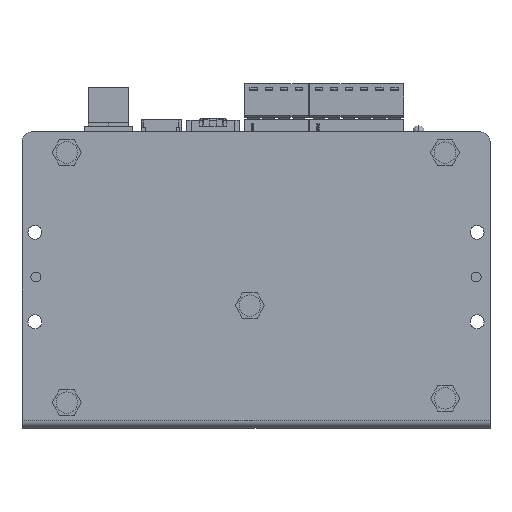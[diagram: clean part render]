
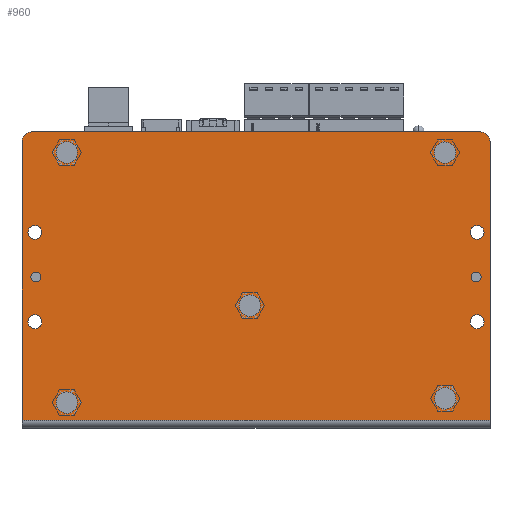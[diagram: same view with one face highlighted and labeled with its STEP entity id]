
A CAD part, front view. The second image highlights one B-rep face of the part: STEP entity #960.
In plain terms, the highlighted planar face has unit normal (0, -1, 0).
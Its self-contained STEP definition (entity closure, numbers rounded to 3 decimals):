
#1=CARTESIAN_POINT('',(-55.75,0.,-10.5));
#2=DIRECTION('',(0.,1.,0.));
#3=DIRECTION('',(1.,0.,0.));
#4=AXIS2_PLACEMENT_3D('',#1,#2,#3);
#6=CARTESIAN_POINT('',(-55.75,0.,-10.5));
#7=DIRECTION('',(0.,1.,0.));
#8=DIRECTION('',(-1.,0.,0.));
#9=AXIS2_PLACEMENT_3D('',#6,#7,#8);
#11=CARTESIAN_POINT('',(55.75,0.,-10.5));
#12=DIRECTION('',(0.,1.,0.));
#13=DIRECTION('',(1.,0.,0.));
#14=AXIS2_PLACEMENT_3D('',#11,#12,#13);
#16=CARTESIAN_POINT('',(55.75,0.,-10.5));
#17=DIRECTION('',(0.,1.,0.));
#18=DIRECTION('',(-1.,0.,0.));
#19=AXIS2_PLACEMENT_3D('',#16,#17,#18);
#21=CARTESIAN_POINT('',(-55.75,0.,12.));
#22=DIRECTION('',(0.,1.,0.));
#23=DIRECTION('',(1.,0.,0.));
#24=AXIS2_PLACEMENT_3D('',#21,#22,#23);
#26=CARTESIAN_POINT('',(-55.75,0.,12.));
#27=DIRECTION('',(0.,1.,0.));
#28=DIRECTION('',(-1.,0.,0.));
#29=AXIS2_PLACEMENT_3D('',#26,#27,#28);
#31=CARTESIAN_POINT('',(55.75,0.,12.));
#32=DIRECTION('',(0.,1.,0.));
#33=DIRECTION('',(1.,0.,0.));
#34=AXIS2_PLACEMENT_3D('',#31,#32,#33);
#36=CARTESIAN_POINT('',(55.75,0.,12.));
#37=DIRECTION('',(0.,1.,0.));
#38=DIRECTION('',(-1.,0.,0.));
#39=AXIS2_PLACEMENT_3D('',#36,#37,#38);
#41=CARTESIAN_POINT('',(-55.5,0.,0.75));
#42=DIRECTION('',(0.,1.,0.));
#43=DIRECTION('',(1.,0.,0.));
#44=AXIS2_PLACEMENT_3D('',#41,#42,#43);
#46=CARTESIAN_POINT('',(-55.5,0.,0.75));
#47=DIRECTION('',(0.,1.,0.));
#48=DIRECTION('',(-1.,0.,0.));
#49=AXIS2_PLACEMENT_3D('',#46,#47,#48);
#51=CARTESIAN_POINT('',(55.5,0.,0.75));
#52=DIRECTION('',(0.,1.,0.));
#53=DIRECTION('',(1.,0.,0.));
#54=AXIS2_PLACEMENT_3D('',#51,#52,#53);
#56=CARTESIAN_POINT('',(55.5,0.,0.75));
#57=DIRECTION('',(0.,1.,0.));
#58=DIRECTION('',(-1.,0.,0.));
#59=AXIS2_PLACEMENT_3D('',#56,#57,#58);
#61=CARTESIAN_POINT('',(47.7,0.,-29.85));
#62=DIRECTION('',(0.,1.,0.));
#63=DIRECTION('',(1.,0.,0.));
#64=AXIS2_PLACEMENT_3D('',#61,#62,#63);
#66=CARTESIAN_POINT('',(47.7,0.,-29.85));
#67=DIRECTION('',(0.,1.,0.));
#68=DIRECTION('',(-1.,0.,0.));
#69=AXIS2_PLACEMENT_3D('',#66,#67,#68);
#71=CARTESIAN_POINT('',(47.65,0.,32.1));
#72=DIRECTION('',(0.,1.,0.));
#73=DIRECTION('',(1.,0.,0.));
#74=AXIS2_PLACEMENT_3D('',#71,#72,#73);
#76=CARTESIAN_POINT('',(47.65,0.,32.1));
#77=DIRECTION('',(0.,1.,0.));
#78=DIRECTION('',(-1.,0.,0.));
#79=AXIS2_PLACEMENT_3D('',#76,#77,#78);
#81=CARTESIAN_POINT('',(-47.7,0.,32.15));
#82=DIRECTION('',(0.,1.,0.));
#83=DIRECTION('',(1.,0.,0.));
#84=AXIS2_PLACEMENT_3D('',#81,#82,#83);
#86=CARTESIAN_POINT('',(-47.7,0.,32.15));
#87=DIRECTION('',(0.,1.,0.));
#88=DIRECTION('',(-1.,0.,0.));
#89=AXIS2_PLACEMENT_3D('',#86,#87,#88);
#91=CARTESIAN_POINT('',(-47.7,0.,-30.9));
#92=DIRECTION('',(0.,1.,0.));
#93=DIRECTION('',(1.,0.,0.));
#94=AXIS2_PLACEMENT_3D('',#91,#92,#93);
#96=CARTESIAN_POINT('',(-47.7,0.,-30.9));
#97=DIRECTION('',(0.,1.,0.));
#98=DIRECTION('',(-1.,0.,0.));
#99=AXIS2_PLACEMENT_3D('',#96,#97,#98);
#101=CARTESIAN_POINT('',(-1.55,0.,-6.45));
#102=DIRECTION('',(0.,1.,0.));
#103=DIRECTION('',(1.,0.,0.));
#104=AXIS2_PLACEMENT_3D('',#101,#102,#103);
#106=CARTESIAN_POINT('',(-1.55,0.,-6.45));
#107=DIRECTION('',(0.,1.,0.));
#108=DIRECTION('',(-1.,0.,0.));
#109=AXIS2_PLACEMENT_3D('',#106,#107,#108);
#111=DIRECTION('',(1.,0.,0.));
#112=VECTOR('',#111,118.);
#113=CARTESIAN_POINT('',(-59.,0.,-35.35));
#114=LINE('',#113,#112);
#115=DIRECTION('',(0.,0.,1.));
#116=VECTOR('',#115,70.2);
#117=CARTESIAN_POINT('',(-59.,0.,-35.35));
#118=LINE('',#117,#116);
#119=CARTESIAN_POINT('',(-56.5,0.,34.85));
#120=DIRECTION('',(0.,-1.,0.));
#121=DIRECTION('',(0.,0.,1.));
#122=AXIS2_PLACEMENT_3D('',#119,#120,#121);
#124=DIRECTION('',(1.,0.,0.));
#125=VECTOR('',#124,113.);
#126=CARTESIAN_POINT('',(-56.5,0.,37.35));
#127=LINE('',#126,#125);
#128=CARTESIAN_POINT('',(56.5,0.,34.85));
#129=DIRECTION('',(0.,-1.,0.));
#130=DIRECTION('',(1.,0.,0.));
#131=AXIS2_PLACEMENT_3D('',#128,#129,#130);
#133=DIRECTION('',(0.,0.,-1.));
#134=VECTOR('',#133,70.2);
#135=CARTESIAN_POINT('',(59.,0.,34.85));
#136=LINE('',#135,#134);
#723=CARTESIAN_POINT('',(-54.,0.,-10.5));
#724=CARTESIAN_POINT('',(-57.5,0.,-10.5));
#725=VERTEX_POINT('',#723);
#726=VERTEX_POINT('',#724);
#727=CARTESIAN_POINT('',(57.5,0.,-10.5));
#728=CARTESIAN_POINT('',(54.,0.,-10.5));
#729=VERTEX_POINT('',#727);
#730=VERTEX_POINT('',#728);
#731=CARTESIAN_POINT('',(-54.,0.,12.));
#732=CARTESIAN_POINT('',(-57.5,0.,12.));
#733=VERTEX_POINT('',#731);
#734=VERTEX_POINT('',#732);
#735=CARTESIAN_POINT('',(57.5,0.,12.));
#736=CARTESIAN_POINT('',(54.,0.,12.));
#737=VERTEX_POINT('',#735);
#738=VERTEX_POINT('',#736);
#755=CARTESIAN_POINT('',(-54.25,0.,0.75));
#756=CARTESIAN_POINT('',(-56.75,0.,0.75));
#757=VERTEX_POINT('',#755);
#758=VERTEX_POINT('',#756);
#759=CARTESIAN_POINT('',(56.75,0.,0.75));
#760=CARTESIAN_POINT('',(54.25,0.,0.75));
#761=VERTEX_POINT('',#759);
#762=VERTEX_POINT('',#760);
#771=CARTESIAN_POINT('',(50.4,0.,-29.85));
#772=CARTESIAN_POINT('',(45.,0.,-29.85));
#773=VERTEX_POINT('',#771);
#774=VERTEX_POINT('',#772);
#779=CARTESIAN_POINT('',(50.35,0.,32.1));
#780=CARTESIAN_POINT('',(44.95,0.,32.1));
#781=VERTEX_POINT('',#779);
#782=VERTEX_POINT('',#780);
#783=CARTESIAN_POINT('',(-45.,0.,32.15));
#784=CARTESIAN_POINT('',(-50.4,0.,32.15));
#785=VERTEX_POINT('',#783);
#786=VERTEX_POINT('',#784);
#787=CARTESIAN_POINT('',(-45.,0.,-30.9));
#788=CARTESIAN_POINT('',(-50.4,0.,-30.9));
#789=VERTEX_POINT('',#787);
#790=VERTEX_POINT('',#788);
#803=CARTESIAN_POINT('',(1.15,0.,-6.45));
#804=CARTESIAN_POINT('',(-4.25,0.,-6.45));
#805=VERTEX_POINT('',#803);
#806=VERTEX_POINT('',#804);
#827=CARTESIAN_POINT('',(-56.5,0.,37.35));
#828=CARTESIAN_POINT('',(-59.,0.,34.85));
#829=VERTEX_POINT('',#827);
#830=VERTEX_POINT('',#828);
#835=CARTESIAN_POINT('',(59.,0.,34.85));
#836=CARTESIAN_POINT('',(56.5,0.,37.35));
#837=VERTEX_POINT('',#835);
#838=VERTEX_POINT('',#836);
#867=CARTESIAN_POINT('',(59.,0.,-35.35));
#869=VERTEX_POINT('',#867);
#873=CARTESIAN_POINT('',(-59.,0.,-35.35));
#874=VERTEX_POINT('',#873);
#875=CARTESIAN_POINT('',(0.,0.,0.));
#876=DIRECTION('',(0.,1.,0.));
#877=DIRECTION('',(1.,0.,0.));
#878=AXIS2_PLACEMENT_3D('',#875,#876,#877);
#879=PLANE('',#878);
#881=ORIENTED_EDGE('',*,*,#880,.F.);
#883=ORIENTED_EDGE('',*,*,#882,.T.);
#885=ORIENTED_EDGE('',*,*,#884,.F.);
#887=ORIENTED_EDGE('',*,*,#886,.T.);
#889=ORIENTED_EDGE('',*,*,#888,.F.);
#891=ORIENTED_EDGE('',*,*,#890,.T.);
#892=EDGE_LOOP('',(#881,#883,#885,#887,#889,#891));
#893=FACE_OUTER_BOUND('',#892,.F.);
#895=ORIENTED_EDGE('',*,*,#894,.F.);
#897=ORIENTED_EDGE('',*,*,#896,.F.);
#898=EDGE_LOOP('',(#895,#897));
#899=FACE_BOUND('',#898,.F.);
#901=ORIENTED_EDGE('',*,*,#900,.F.);
#903=ORIENTED_EDGE('',*,*,#902,.F.);
#904=EDGE_LOOP('',(#901,#903));
#905=FACE_BOUND('',#904,.F.);
#907=ORIENTED_EDGE('',*,*,#906,.F.);
#909=ORIENTED_EDGE('',*,*,#908,.F.);
#910=EDGE_LOOP('',(#907,#909));
#911=FACE_BOUND('',#910,.F.);
#913=ORIENTED_EDGE('',*,*,#912,.F.);
#915=ORIENTED_EDGE('',*,*,#914,.F.);
#916=EDGE_LOOP('',(#913,#915));
#917=FACE_BOUND('',#916,.F.);
#919=ORIENTED_EDGE('',*,*,#918,.F.);
#921=ORIENTED_EDGE('',*,*,#920,.F.);
#922=EDGE_LOOP('',(#919,#921));
#923=FACE_BOUND('',#922,.F.);
#925=ORIENTED_EDGE('',*,*,#924,.F.);
#927=ORIENTED_EDGE('',*,*,#926,.F.);
#928=EDGE_LOOP('',(#925,#927));
#929=FACE_BOUND('',#928,.F.);
#931=ORIENTED_EDGE('',*,*,#930,.F.);
#933=ORIENTED_EDGE('',*,*,#932,.F.);
#934=EDGE_LOOP('',(#931,#933));
#935=FACE_BOUND('',#934,.F.);
#937=ORIENTED_EDGE('',*,*,#936,.F.);
#939=ORIENTED_EDGE('',*,*,#938,.F.);
#940=EDGE_LOOP('',(#937,#939));
#941=FACE_BOUND('',#940,.F.);
#943=ORIENTED_EDGE('',*,*,#942,.F.);
#945=ORIENTED_EDGE('',*,*,#944,.F.);
#946=EDGE_LOOP('',(#943,#945));
#947=FACE_BOUND('',#946,.F.);
#949=ORIENTED_EDGE('',*,*,#948,.F.);
#951=ORIENTED_EDGE('',*,*,#950,.F.);
#952=EDGE_LOOP('',(#949,#951));
#953=FACE_BOUND('',#952,.F.);
#955=ORIENTED_EDGE('',*,*,#954,.F.);
#957=ORIENTED_EDGE('',*,*,#956,.F.);
#958=EDGE_LOOP('',(#955,#957));
#959=FACE_BOUND('',#958,.F.);
#960=ADVANCED_FACE('',(#893,#899,#905,#911,#917,#923,#929,#935,#941,#947,#953,
#959),#879,.F.);
#5=CIRCLE('',#4,1.75);
#10=CIRCLE('',#9,1.75);
#15=CIRCLE('',#14,1.75);
#20=CIRCLE('',#19,1.75);
#25=CIRCLE('',#24,1.75);
#30=CIRCLE('',#29,1.75);
#35=CIRCLE('',#34,1.75);
#40=CIRCLE('',#39,1.75);
#45=CIRCLE('',#44,1.25);
#50=CIRCLE('',#49,1.25);
#55=CIRCLE('',#54,1.25);
#60=CIRCLE('',#59,1.25);
#65=CIRCLE('',#64,2.7);
#70=CIRCLE('',#69,2.7);
#75=CIRCLE('',#74,2.7);
#80=CIRCLE('',#79,2.7);
#85=CIRCLE('',#84,2.7);
#90=CIRCLE('',#89,2.7);
#95=CIRCLE('',#94,2.7);
#100=CIRCLE('',#99,2.7);
#105=CIRCLE('',#104,2.7);
#110=CIRCLE('',#109,2.7);
#123=CIRCLE('',#122,2.5);
#132=CIRCLE('',#131,2.5);
#880=EDGE_CURVE('',#874,#869,#114,.T.);
#882=EDGE_CURVE('',#874,#830,#118,.T.);
#884=EDGE_CURVE('',#829,#830,#123,.T.);
#886=EDGE_CURVE('',#829,#838,#127,.T.);
#888=EDGE_CURVE('',#837,#838,#132,.T.);
#890=EDGE_CURVE('',#837,#869,#136,.T.);
#894=EDGE_CURVE('',#729,#730,#15,.T.);
#896=EDGE_CURVE('',#730,#729,#20,.T.);
#900=EDGE_CURVE('',#733,#734,#25,.T.);
#902=EDGE_CURVE('',#734,#733,#30,.T.);
#906=EDGE_CURVE('',#737,#738,#35,.T.);
#908=EDGE_CURVE('',#738,#737,#40,.T.);
#912=EDGE_CURVE('',#757,#758,#45,.T.);
#914=EDGE_CURVE('',#758,#757,#50,.T.);
#918=EDGE_CURVE('',#761,#762,#55,.T.);
#920=EDGE_CURVE('',#762,#761,#60,.T.);
#924=EDGE_CURVE('',#773,#774,#65,.T.);
#926=EDGE_CURVE('',#774,#773,#70,.T.);
#930=EDGE_CURVE('',#781,#782,#75,.T.);
#932=EDGE_CURVE('',#782,#781,#80,.T.);
#936=EDGE_CURVE('',#785,#786,#85,.T.);
#938=EDGE_CURVE('',#786,#785,#90,.T.);
#942=EDGE_CURVE('',#789,#790,#95,.T.);
#944=EDGE_CURVE('',#790,#789,#100,.T.);
#948=EDGE_CURVE('',#805,#806,#105,.T.);
#950=EDGE_CURVE('',#806,#805,#110,.T.);
#954=EDGE_CURVE('',#725,#726,#5,.T.);
#956=EDGE_CURVE('',#726,#725,#10,.T.);
